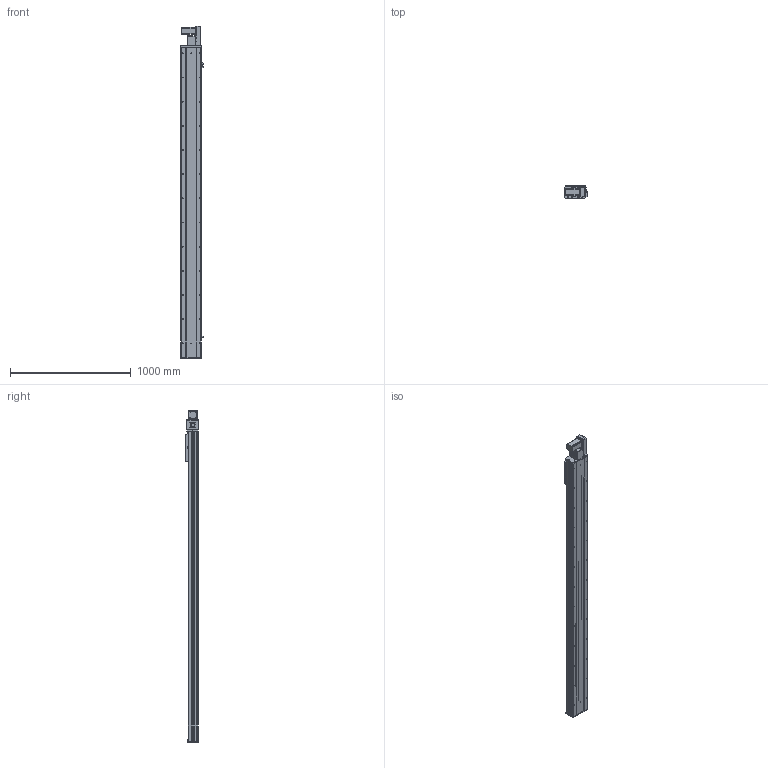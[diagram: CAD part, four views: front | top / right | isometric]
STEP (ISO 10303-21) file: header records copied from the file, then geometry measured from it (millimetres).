
FILE_DESCRIPTION (( 'STEP AP203' ), '1' );
FILE_NAME ('Y170CB-D105-S2250-BR-P400W.STEP', '2020-02-19T09:44:21', ( '微软用户' ), ( '微软中国' ), 'SwSTEP 2.0', 'SolidWorks 2017', '' );
FILE_SCHEMA (( 'CONFIG_CONTROL_DESIGN' ));
Length unit declared in the file: millimetre
Products named in the file (17): 70CB-詩湍--; 70C--詩湍揤踡え-; 70B喘謫眊----; B-源倛裔啣; 17B-耜蚾蟀諉啣----; 0B-萇儂楊擘啣; san松下电机400不带刹车----; Y70俋欶BR----; 70CB-掛极-; --70CB --喘謫眊楊擘啣-; 70CB-耜裔啣-; 70CB--耜裔; 70C-雄赽釱-奻-; 0C--雄赽釱俋欶-170; Y100-135俋离換覜ん--; Y170CB-陔俋离換覜結え---; Y170CB-D105-S2250-BR-P400W
Assembly tree (20 placements, depth 2):
  Y170CB-D105-S2250-BR-P400W
    70B喘謫眊----
    B-源倛裔啣
    17B-耜蚾蟀諉啣----
    0B-萇儂楊擘啣
    san松下电机400不带刹车----
    Y70俋欶BR----
    70CB-掛极-
    --70CB --喘謫眊楊擘啣-
    70CB-耜裔啣-  x2
    70C--詩湍揤踡え-  x2
    70CB--耜裔
    70C-雄赽釱-奻-
    0C--雄赽釱俋欶-170
    70CB-詩湍--
    Y100-135俋离換覜ん--  x3
    Y170CB-陔俋离換覜結え---
Bounding box: 183.5 x 107 x 2747 mm (x, y, z)
Volume: 11454395.1 mm3; surface area: 4125601.2 mm2
Topology: 20 solids, 20 shells, 1041 faces, 2801 edges, 1858 vertices
Faces by surface type: cylinder 555, plane 462, cone 24
Entity records: 33211 total; most frequent: CARTESIAN_POINT 6141, DIRECTION 5404, ORIENTED_EDGE 5084, EDGE_CURVE 2542, AXIS2_PLACEMENT_3D 1985, VERTEX_POINT 1688, VECTOR 1434, LINE 1434
